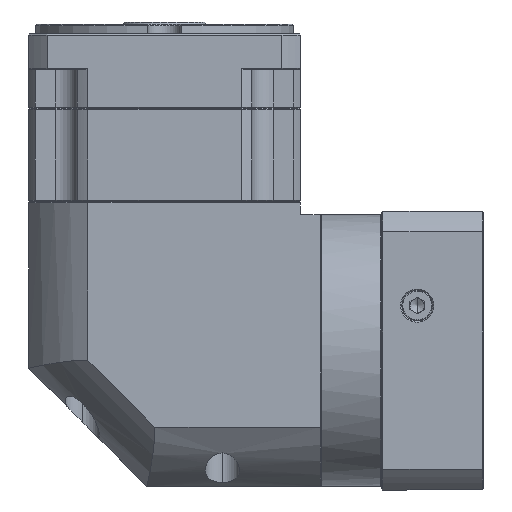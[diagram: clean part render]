
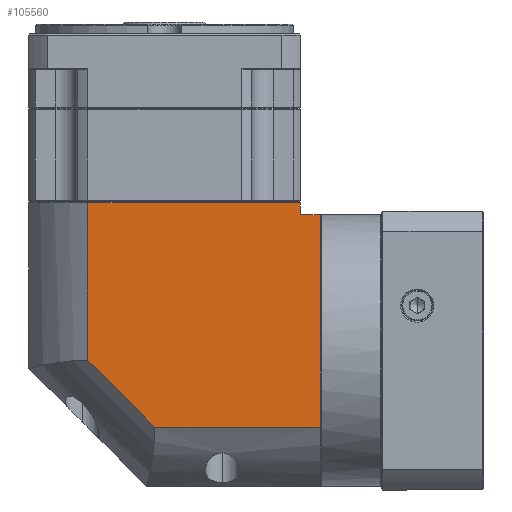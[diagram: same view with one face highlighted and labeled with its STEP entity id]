
A CAD part, left-side view. The second image highlights one B-rep face of the part: STEP entity #105560.
In plain terms, the highlighted planar face has unit normal (-1, 0, 0).
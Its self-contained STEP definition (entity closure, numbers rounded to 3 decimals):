
#3020 = VERTEX_POINT ( 'NONE', #28493 ) ;
#6091 = CARTESIAN_POINT ( 'NONE',  ( -232.004, 22.433, 127.551 ) ) ;
#10074 = DIRECTION ( 'NONE',  ( 0., 0., 1. ) ) ;
#10158 = CARTESIAN_POINT ( 'NONE',  ( -232.004, -5.905, 32.651 ) ) ;
#13866 = ORIENTED_EDGE ( 'NONE', *, *, #86949, .F. ) ;
#14747 = CARTESIAN_POINT ( 'NONE',  ( -232.004, -67.467, 122.551 ) ) ;
#15213 = VERTEX_POINT ( 'NONE', #111415 ) ;
#17773 = LINE ( 'NONE', #98356, #52313 ) ;
#21165 = CARTESIAN_POINT ( 'NONE',  ( -232.004, -75.867, 32.651 ) ) ;
#28493 = CARTESIAN_POINT ( 'NONE',  ( -232.004, 22.433, 60.989 ) ) ;
#35568 = EDGE_CURVE ( 'NONE', #150857, #3020, #83219, .T. ) ;
#42603 = LINE ( 'NONE', #14747, #111570 ) ;
#42689 = EDGE_LOOP ( 'NONE', ( #75391, #61469, #69461, #77515, #52352, #140970, #13866 ) ) ;
#47033 = AXIS2_PLACEMENT_3D ( 'NONE', #140254, #62563, #153352 ) ;
#48479 = LINE ( 'NONE', #141958, #143837 ) ;
#52313 = VECTOR ( 'NONE', #125591, 1000. ) ;
#52352 = ORIENTED_EDGE ( 'NONE', *, *, #163714, .T. ) ;
#53732 = VERTEX_POINT ( 'NONE', #166887 ) ;
#60858 = DIRECTION ( 'NONE',  ( 0., -1., 0. ) ) ;
#60945 = LINE ( 'NONE', #126351, #156361 ) ;
#61469 = ORIENTED_EDGE ( 'NONE', *, *, #35568, .F. ) ;
#62563 = DIRECTION ( 'NONE',  ( 1., 0., 0. ) ) ;
#69461 = ORIENTED_EDGE ( 'NONE', *, *, #103025, .F. ) ;
#75391 = ORIENTED_EDGE ( 'NONE', *, *, #129527, .F. ) ;
#76452 = CARTESIAN_POINT ( 'NONE',  ( -232.004, -5.905, 32.651 ) ) ;
#77515 = ORIENTED_EDGE ( 'NONE', *, *, #85490, .F. ) ;
#80370 = LINE ( 'NONE', #139102, #149389 ) ;
#83219 = LINE ( 'NONE', #10158, #148209 ) ;
#83460 = FACE_OUTER_BOUND ( 'NONE', #42689, .T. ) ;
#85490 = EDGE_CURVE ( 'NONE', #88403, #154392, #48479, .T. ) ;
#86949 = EDGE_CURVE ( 'NONE', #160567, #15213, #80370, .T. ) ;
#87041 = CARTESIAN_POINT ( 'NONE',  ( -232.004, -67.467, 7.551 ) ) ;
#88092 = PLANE ( 'NONE',  #47033 ) ;
#88403 = VERTEX_POINT ( 'NONE', #155298 ) ;
#90367 = DIRECTION ( 'NONE',  ( 0., 0., -1. ) ) ;
#98356 = CARTESIAN_POINT ( 'NONE',  ( -232.004, 47.533, 32.651 ) ) ;
#103025 = EDGE_CURVE ( 'NONE', #154392, #150857, #17773, .T. ) ;
#104252 = VECTOR ( 'NONE', #165357, 1000. ) ;
#105409 = DIRECTION ( 'NONE',  ( 0., 1., 0. ) ) ;
#105560 = ADVANCED_FACE ( 'NONE', ( #83460 ), #88092, .F. ) ;
#108321 = LINE ( 'NONE', #87041, #104252 ) ;
#111415 = CARTESIAN_POINT ( 'NONE',  ( -232.004, -67.467, 127.551 ) ) ;
#111570 = VECTOR ( 'NONE', #105409, 1000. ) ;
#113979 = DIRECTION ( 'NONE',  ( 0., 0.707, 0.707 ) ) ;
#125591 = DIRECTION ( 'NONE',  ( 0., 1., 0. ) ) ;
#126351 = CARTESIAN_POINT ( 'NONE',  ( -232.004, 22.433, 134.051 ) ) ;
#129527 = EDGE_CURVE ( 'NONE', #3020, #160567, #60945, .T. ) ;
#139102 = CARTESIAN_POINT ( 'NONE',  ( -232.004, 47.533, 127.551 ) ) ;
#140254 = CARTESIAN_POINT ( 'NONE',  ( -232.004, 47.533, 134.051 ) ) ;
#140970 = ORIENTED_EDGE ( 'NONE', *, *, #148115, .T. ) ;
#141958 = CARTESIAN_POINT ( 'NONE',  ( -232.004, -75.867, 134.051 ) ) ;
#143837 = VECTOR ( 'NONE', #90367, 1000. ) ;
#148115 = EDGE_CURVE ( 'NONE', #53732, #15213, #108321, .T. ) ;
#148209 = VECTOR ( 'NONE', #113979, 1000. ) ;
#149389 = VECTOR ( 'NONE', #60858, 1000. ) ;
#150857 = VERTEX_POINT ( 'NONE', #76452 ) ;
#153352 = DIRECTION ( 'NONE',  ( 0., 1., 0. ) ) ;
#154392 = VERTEX_POINT ( 'NONE', #21165 ) ;
#155298 = CARTESIAN_POINT ( 'NONE',  ( -232.004, -75.867, 122.551 ) ) ;
#156361 = VECTOR ( 'NONE', #10074, 1000. ) ;
#160567 = VERTEX_POINT ( 'NONE', #6091 ) ;
#163714 = EDGE_CURVE ( 'NONE', #88403, #53732, #42603, .T. ) ;
#165357 = DIRECTION ( 'NONE',  ( 0., 0., 1. ) ) ;
#166887 = CARTESIAN_POINT ( 'NONE',  ( -232.004, -67.467, 122.551 ) ) ;
